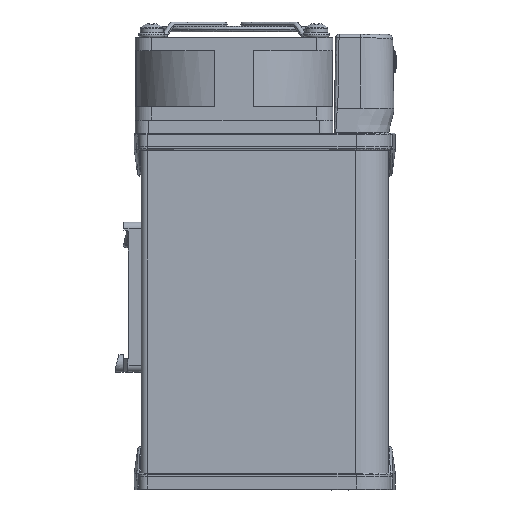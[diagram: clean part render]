
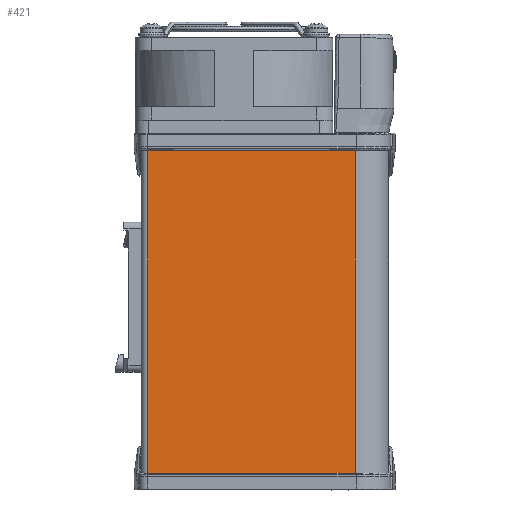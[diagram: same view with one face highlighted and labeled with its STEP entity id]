
A CAD part, left-side view. The second image highlights one B-rep face of the part: STEP entity #421.
In plain terms, the highlighted planar face has unit normal (-1, 0, 0).
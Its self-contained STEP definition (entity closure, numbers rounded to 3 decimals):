
#421=ADVANCED_FACE('',(#1704),#20138,.T.);
#1704=FACE_OUTER_BOUND('',#2998,.T.);
#2998=EDGE_LOOP('',(#5415,#5416,#5417,#5418));
#5415=ORIENTED_EDGE('',*,*,#11369,.T.);
#5416=ORIENTED_EDGE('',*,*,#11318,.F.);
#5417=ORIENTED_EDGE('',*,*,#11319,.T.);
#5418=ORIENTED_EDGE('',*,*,#11396,.F.);
#11318=EDGE_CURVE('',#18193,#18233,#14559,.T.);
#11319=EDGE_CURVE('',#18193,#18194,#14560,.T.);
#11369=EDGE_CURVE('',#18234,#18233,#14588,.T.);
#11396=EDGE_CURVE('',#18234,#18194,#14606,.T.);
#14559=B_SPLINE_CURVE_WITH_KNOTS('',1,(#31162,#31163),.UNSPECIFIED.,.F.,
 .F.,(2,2),(-200.,-99.95),.UNSPECIFIED.);
#14560=B_SPLINE_CURVE_WITH_KNOTS('',1,(#31164,#31165),.UNSPECIFIED.,.F.,
 .F.,(2,2),(0.,63.),.UNSPECIFIED.);
#14588=B_SPLINE_CURVE_WITH_KNOTS('',1,(#31290,#31291),.UNSPECIFIED.,.F.,
 .F.,(2,2),(-63.,0.),.UNSPECIFIED.);
#14606=B_SPLINE_CURVE_WITH_KNOTS('',1,(#31357,#31358),.UNSPECIFIED.,.F.,
 .F.,(2,2),(99.95,200.),.UNSPECIFIED.);
#18193=VERTEX_POINT('',#31021);
#18194=VERTEX_POINT('',#31022);
#18233=VERTEX_POINT('',#31061);
#18234=VERTEX_POINT('',#31062);
#20138=PLANE('',#21436);
#21436=AXIS2_PLACEMENT_3D('',#30828,#21853,$);
#21853=DIRECTION('',(-1.,0.,0.));
#30828=CARTESIAN_POINT('',(-230.084,-33.809,-220.001));
#31021=CARTESIAN_POINT('',(-230.084,35.492,-200.));
#31022=CARTESIAN_POINT('',(-230.084,-27.508,-200.));
#31061=CARTESIAN_POINT('',(-230.084,35.492,-99.95));
#31062=CARTESIAN_POINT('',(-230.084,-27.508,-99.95));
#31162=CARTESIAN_POINT('',(-230.084,35.492,-200.));
#31163=CARTESIAN_POINT('',(-230.084,35.492,-99.95));
#31164=CARTESIAN_POINT('',(-230.084,35.492,-200.));
#31165=CARTESIAN_POINT('',(-230.084,-27.508,-200.));
#31290=CARTESIAN_POINT('',(-230.084,-27.508,-99.95));
#31291=CARTESIAN_POINT('',(-230.084,35.492,-99.95));
#31357=CARTESIAN_POINT('',(-230.084,-27.508,-99.95));
#31358=CARTESIAN_POINT('',(-230.084,-27.508,-200.));
